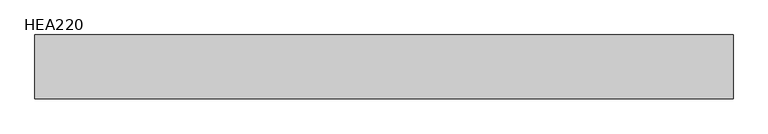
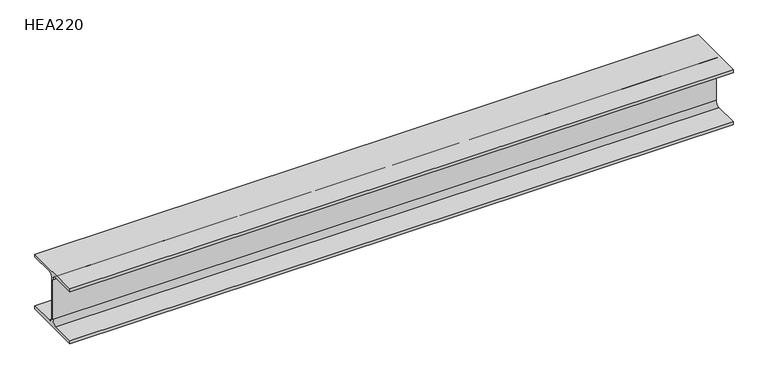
"""IFC4 building model written with IfcOpenShell, lengths in millimetres: beam geometry, HE-A : HEA220."""

import ifcopenshell
import ifcopenshell.guid

model = None  # the IFC model being written
_history = None  # IfcOwnerHistory: only IFC2X3 demands one
_inside = {}  # id of a spatial element -> (the spatial element, [elements in it])
_under = {}  # id of a project, library or spatial element -> (it, [spatial elements below it])
_declared = {}  # id of a project -> (the project, [libraries it declares])
_typed = {}  # id of a type object -> (the type object, [elements of that type])
_made_of = {}  # id of a material, layer set ... -> (it, [elements and type objects made of it])


def new_model(schema):
    """Start an empty IFC model of exactly this schema.

    Asked for "IFC4X3", IfcOpenShell would pick the latest addendum, in which some entities
    have other attributes; the version numbers below select the first issue.
    IFC2X3 requires an IfcOwnerHistory on every rooted entity: one is made here for all.
    """
    global model, _history
    if schema == "IFC4X3":
        model = ifcopenshell.file(schema_version=(4, 3, 0, 0))
    else:
        model = ifcopenshell.file(schema=schema)
    _inside.clear()
    _under.clear()
    _declared.clear()
    _typed.clear()
    _made_of.clear()
    _history = None
    if model.schema == "IFC2X3":
        org = make("IfcOrganization", Name="unknown")
        user = make(
            "IfcPersonAndOrganization",
            ThePerson=make("IfcPerson", FamilyName="unknown"),
            TheOrganization=org,
        )
        app = make(
            "IfcApplication",
            ApplicationDeveloper=org,
            Version="unknown",
            ApplicationFullName="unknown",
            ApplicationIdentifier="unknown",
        )
        _history = make(
            "IfcOwnerHistory",
            OwningUser=user,
            OwningApplication=app,
            ChangeAction="ADDED",
            CreationDate=0,
        )
    return model


def make(cls, **values):
    """One entity of the class cls with the attributes given. An attribute that is None is left unset."""
    return model.create_entity(
        cls, **{name: value for name, value in values.items() if value is not None}
    )


def rooted(cls, **values):
    """An entity with a GlobalId (a new one), such as an element, a storey or a relation."""
    return make(cls, GlobalId=ifcopenshell.guid.new(), OwnerHistory=_history, **values)


def si_unit(unit_type, name, prefix=None):
    """IfcSIUnit, for example si_unit("LENGTHUNIT", "METRE", prefix="MILLI")."""
    return make("IfcSIUnit", UnitType=unit_type, Prefix=prefix, Name=name)


def assignment(units):
    """IfcUnitAssignment: the units of a project."""
    return None if units is None else make("IfcUnitAssignment", Units=units)


def point(xyz):
    """IfcCartesianPoint."""
    return None if xyz is None else make("IfcCartesianPoint", Coordinates=xyz)


def direction(xyz):
    """IfcDirection."""
    return None if xyz is None else make("IfcDirection", DirectionRatios=xyz)


def frame(location, z_axis=None, x_axis=None):
    """IfcAxis2Placement3D, a coordinate frame: its origin and axes. An axis left out is left unset."""
    return make(
        "IfcAxis2Placement3D",
        Location=point(location),
        Axis=direction(z_axis),
        RefDirection=direction(x_axis),
    )


def frame_2d(location, x_axis=None):
    """IfcAxis2Placement2D, a coordinate frame in the plane: its origin and x axis."""
    return make(
        "IfcAxis2Placement2D", Location=point(location), RefDirection=direction(x_axis)
    )


def origin():
    """The frame at (0, 0, 0) with its axes left unset."""
    return frame((0.0, 0.0, 0.0))


def place(relative_to, where):
    """IfcLocalPlacement: puts the frame where relative to a parent placement (None: the world)."""
    return make(
        "IfcLocalPlacement", PlacementRelTo=relative_to, RelativePlacement=where
    )


def context(
    kind, dimensions, precision=None, world=None, true_north=None, identifier=None
):
    """IfcGeometricRepresentationContext, for example the 3D "Model" context."""
    return make(
        "IfcGeometricRepresentationContext",
        ContextIdentifier=identifier,
        ContextType=kind,
        CoordinateSpaceDimension=dimensions,
        Precision=precision,
        WorldCoordinateSystem=world,
        TrueNorth=true_north,
    )


def project(units=None, contexts=None):
    """IfcProject with its units and contexts."""
    return rooted(
        "IfcProject",
        Name="project",
        RepresentationContexts=contexts,
        UnitsInContext=assignment(units),
    )


def spatial(cls, under=None, at=None, **own):
    """A site, building, storey or space (cls), placed at a placement, below another one or the project."""
    s = rooted(cls, ObjectPlacement=at, **own)
    if under is not None:
        _under.setdefault(under.id(), (under, []))[1].append(s)
    return s


def polyline(points):
    """IfcPolyline through the points."""
    return make("IfcPolyline", Points=[point(p) for p in points])


def circle_curve(where, radius):
    """IfcCircle in the frame where."""
    return make("IfcCircle", Position=where, Radius=radius)


def trimmed(basis, trim1, trim2, sense, master):
    """IfcTrimmedCurve: the piece of a basis curve between two trims."""
    return make(
        "IfcTrimmedCurve",
        BasisCurve=basis,
        Trim1=trim1,
        Trim2=trim2,
        SenseAgreement=sense,
        MasterRepresentation=master,
    )


def segment(curve, same_sense, transition):
    """IfcCompositeCurveSegment."""
    return make(
        "IfcCompositeCurveSegment",
        Transition=transition,
        SameSense=same_sense,
        ParentCurve=curve,
    )


def composite_curve(segments, self_intersect=None):
    """IfcCompositeCurve: segments joined end to end."""
    return make("IfcCompositeCurve", Segments=segments, SelfIntersect=self_intersect)


def outline(outer, holes=None, kind="AREA"):
    """IfcArbitraryClosedProfileDef: a profile drawn as a closed curve; with holes, ...WithVoids."""
    if holes is None:
        return make("IfcArbitraryClosedProfileDef", ProfileType=kind, OuterCurve=outer)
    return make(
        "IfcArbitraryProfileDefWithVoids",
        ProfileType=kind,
        OuterCurve=outer,
        InnerCurves=holes,
    )


def extrude(swept, where, along, depth):
    """IfcExtrudedAreaSolid: the profile swept, set in the frame where, extruded along a direction by depth."""
    return make(
        "IfcExtrudedAreaSolid",
        SweptArea=swept,
        Position=where,
        ExtrudedDirection=direction(along),
        Depth=depth,
    )


def shape(context_of_items, identifier, shape_type, items):
    """IfcShapeRepresentation: the items that make up one representation, for example the "Body"."""
    return make(
        "IfcShapeRepresentation",
        ContextOfItems=context_of_items,
        RepresentationIdentifier=identifier,
        RepresentationType=shape_type,
        Items=items,
    )


def source(mapping_origin, context_of_items, identifier, shape_type, items):
    """IfcRepresentationMap: a shape defined once, which mapped items show again and again."""
    return make(
        "IfcRepresentationMap",
        MappingOrigin=mapping_origin,
        MappedRepresentation=shape(context_of_items, identifier, shape_type, items),
    )


def transform(
    local_origin,
    x_axis=None,
    y_axis=None,
    z_axis=None,
    scale=None,
    scale2=None,
    scale3=None,
    uniform=True,
):
    """IfcCartesianTransformationOperator3D, or its non-uniform kind. x_axis, y_axis, z_axis: its Axis1, 2, 3."""
    if uniform:
        return make(
            "IfcCartesianTransformationOperator3D",
            Axis1=direction(x_axis),
            Axis2=direction(y_axis),
            LocalOrigin=point(local_origin),
            Scale=scale,
            Axis3=direction(z_axis),
        )
    return make(
        "IfcCartesianTransformationOperator3DnonUniform",
        Axis1=direction(x_axis),
        Axis2=direction(y_axis),
        LocalOrigin=point(local_origin),
        Scale=scale,
        Axis3=direction(z_axis),
        Scale2=scale2,
        Scale3=scale3,
    )


def mapped(mapping_source, mapping_target):
    """IfcMappedItem: shows the shape of a source again, moved by a transform."""
    return make(
        "IfcMappedItem", MappingSource=mapping_source, MappingTarget=mapping_target
    )


def made_of(thing, what):
    """Note that an element or type object is made of a material, layer set ...; save() writes the relation."""
    if what is not None:
        _made_of.setdefault(what.id(), (what, []))[1].append(thing)
    return thing


def element(
    cls,
    number,
    at=None,
    inside=None,
    cuts=None,
    type_object=None,
    material=None,
    context=None,
    identifier="Body",
    shape_type=None,
    held_by="IfcProductDefinitionShape",
    body=None,
    shapes=None,
    **own,
):
    """One element of the class cls, such as IfcWall. Its Tag is "e" and its number.

    at: its placement. inside: the storey or other place that contains it. cuts: it is an
    opening in that element (IfcRelVoidsElement). A single representation is given by context,
    identifier, shape_type and body (its items); several are given by shapes. held_by: the class
    of the entity that holds the representations. save() writes the other relations.
    """
    e = rooted(cls, Tag="e%d" % number, ObjectPlacement=at, **own)
    if body is not None:
        shapes = [shape(context, identifier, shape_type, body)]
    if shapes is not None:
        e.Representation = make(held_by, Representations=shapes)
    if inside is not None:
        _inside.setdefault(inside.id(), (inside, []))[1].append(e)
    if cuts is not None:
        rooted(
            "IfcRelVoidsElement", RelatingBuildingElement=cuts, RelatedOpeningElement=e
        )
    if type_object is not None:
        _typed.setdefault(type_object.id(), (type_object, []))[1].append(e)
    return made_of(e, material)


def aggregate(whole, parts):
    """IfcRelAggregates: a whole, such as a stair, and the parts it consists of."""
    return rooted("IfcRelAggregates", RelatingObject=whole, RelatedObjects=parts)


def save(model, path):
    """Write the relations noted so far, then the file.

    IfcRelAggregates (storeys below a building ...), IfcRelContainedInSpatialStructure (elements
    in a storey), IfcRelDefinesByType, IfcRelAssociatesMaterial and IfcRelDeclares: one each for
    every whole, place, type object, material and project.
    """
    for whole, parts in _under.values():
        aggregate(whole, parts)
    for where, things in _inside.values():
        rooted(
            "IfcRelContainedInSpatialStructure",
            RelatedElements=things,
            RelatingStructure=where,
        )
    for kind, things in _typed.values():
        rooted("IfcRelDefinesByType", RelatedObjects=things, RelatingType=kind)
    for what, things in _made_of.values():
        rooted("IfcRelAssociatesMaterial", RelatedObjects=things, RelatingMaterial=what)
    for by, libraries in _declared.values():
        rooted("IfcRelDeclares", RelatingContext=by, RelatedDefinitions=libraries)
    model.write(path)


def hea220_6ebdf5e4(model_context):
    return source(origin(), model_context, "Body", "SweptSolid", [
        extrude(outline(composite_curve([segment(polyline([(110.0, -94.0), (110.0, -105.0), (-110.0, -105.0), (-110.0, -94.0), (-21.5, -94.0)]), True, "CONTINUOUS"), segment(trimmed(circle_curve(frame_2d((-21.5, -76.0)), 18.0), [point((-21.5, -94.0))], [point((-3.5, -76.0))], True, "CARTESIAN"), True, "CONTINUOUS"), segment(polyline([(-3.5, -76.0), (-3.5, 76.0)]), True, "CONTINUOUS"), segment(trimmed(circle_curve(frame_2d((-21.5, 76.0)), 18.0), [point((-3.5, 76.0))], [point((-21.5, 94.0))], True, "CARTESIAN"), True, "CONTINUOUS"), segment(polyline([(-21.5, 94.0), (-110.0, 94.0), (-110.0, 105.0), (110.0, 105.0), (110.0, 94.0), (21.5, 94.0)]), True, "CONTINUOUS"), segment(trimmed(circle_curve(frame_2d((21.5, 76.0)), 18.0), [point((21.5, 94.0))], [point((3.5, 76.0))], True, "CARTESIAN"), True, "CONTINUOUS"), segment(polyline([(3.5, 76.0), (3.5, -76.0)]), True, "CONTINUOUS"), segment(trimmed(circle_curve(frame_2d((21.5, -76.0)), 18.0), [point((3.5, -76.0))], [point((21.5, -94.0))], True, "CARTESIAN"), True, "CONTINUOUS"), segment(polyline([(21.5, -94.0), (110.0, -94.0)]), True, "CONTINUOUS")], self_intersect=False)), frame((-1201.85, 0.0, 0.0), z_axis=(1.0, 0.0, 0.0), x_axis=(0.0, 1.0, 0.0)), (0.0, 0.0, 1.0), 2403.7),
    ])


if __name__ == "__main__":
    model = new_model("IFC4")
    model_context = context("Model", 3, world=origin())
    ifc_project = project(units=[si_unit("LENGTHUNIT", "METRE", prefix="MILLI")], contexts=[model_context])
    site = spatial("IfcSite", under=ifc_project)
    building = spatial("IfcBuilding", under=site)
    placement = place(None, origin())
    hea220_shape = hea220_6ebdf5e4(model_context)
    element("IfcBeam", 1, ObjectType="HE-A : HEA220", at=placement, inside=building, context=model_context, shape_type="MappedRepresentation", body=[
        mapped(hea220_shape, transform((0.0, 0.0, 0.0), x_axis=(1.0, 0.0, 0.0), y_axis=(0.0, 1.0, 0.0), z_axis=(0.0, 0.0, 1.0))),
    ])
    save(model, "model.ifc")
